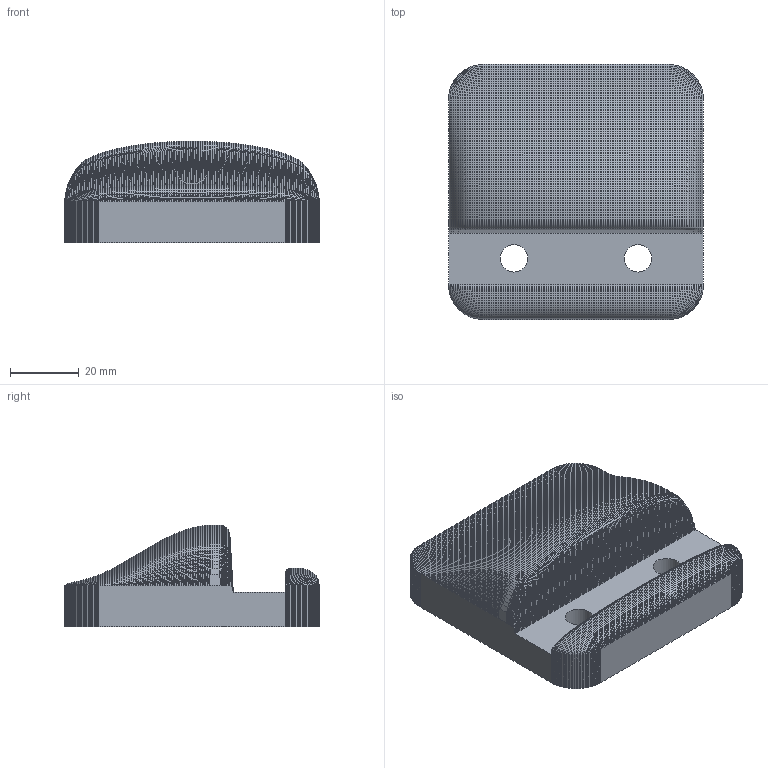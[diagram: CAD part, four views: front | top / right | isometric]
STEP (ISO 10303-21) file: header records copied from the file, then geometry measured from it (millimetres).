
FILE_DESCRIPTION(('Open CASCADE Model'),'2;1');
FILE_NAME('Open CASCADE Shape Model','2026-11-15T02:23:03',('Author'),( 'Open CASCADE'),'Open CASCADE STEP processor 7.8','Open CASCADE 7.8' ,'Unknown');
FILE_SCHEMA(('AUTOMOTIVE_DESIGN { 1 0 10303 214 1 1 1 1 }'));
Length unit declared in the file: millimetre
Products named in the file (2): phone-stand; phone stand
Assembly tree (1 placements, depth 2):
  phone-stand
    phone stand
Bounding box: 74 x 74 x 29.5 mm (x, y, z)
Volume: 87419.4 mm3; surface area: 16962.9 mm2
Topology: 1 solids, 1 shells, 31535 faces, 52347 edges, 20815 vertices
Faces by surface type: plane 31529, cylinder 6
Full cylindrical faces by diameter (mm): 8 x2
Entity records: 1337966 total; most frequent: DIRECTION 217142, CARTESIAN_POINT 212418, LINE 154040, VECTOR 154040, ORIENTED_EDGE 104694, PCURVE 104694, DEFINITIONAL_REPRESENTATION 104694, EDGE_CURVE 52347
